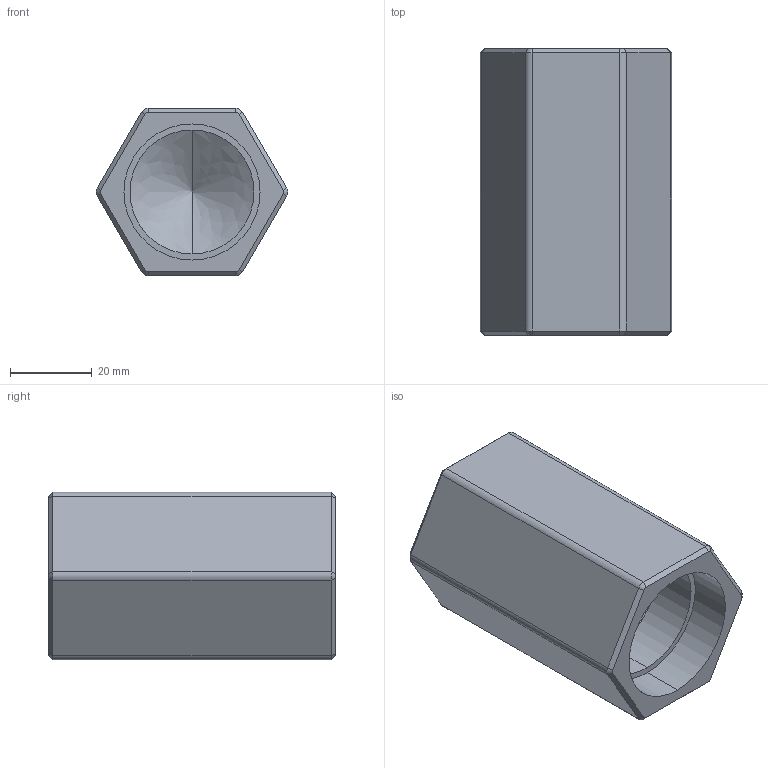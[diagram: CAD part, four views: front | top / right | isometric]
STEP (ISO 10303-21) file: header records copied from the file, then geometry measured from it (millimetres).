
FILE_DESCRIPTION( (''), '2;1');
FILE_NAME ('PC1276.11140.CF-90 25A_437.stp','2025-06-09T15:33:06',(''),(''),'spGate 20.6.3 (****-****-****-****)','','');
FILE_SCHEMA (('AUTOMOTIVE_DESIGN'));
Length unit declared in the file: millimetre
Bounding box: 46.72 x 70 x 41 mm (x, y, z)
Volume: 62699.5 mm3; surface area: 17198.7 mm2
Topology: 1 solids, 1 shells, 52 faces, 116 edges, 66 vertices
Faces by surface type: plane 22, bspline 16, cylinder 14
Entity records: 2389 total; most frequent: CARTESIAN_POINT 338, ORIENTED_EDGE 224, DIRECTION 212, COLOUR_RGB 165, PRESENTATION_STYLE_ASSIGNMENT 165, STYLED_ITEM 165, EDGE_CURVE 112, DRAUGHTING_PRE_DEFINED_CURVE_FONT 112
